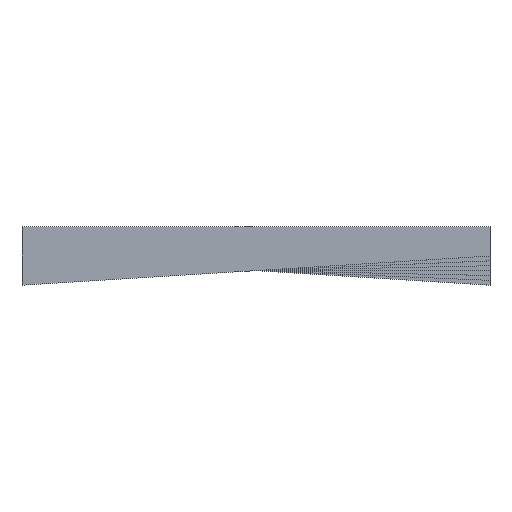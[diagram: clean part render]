
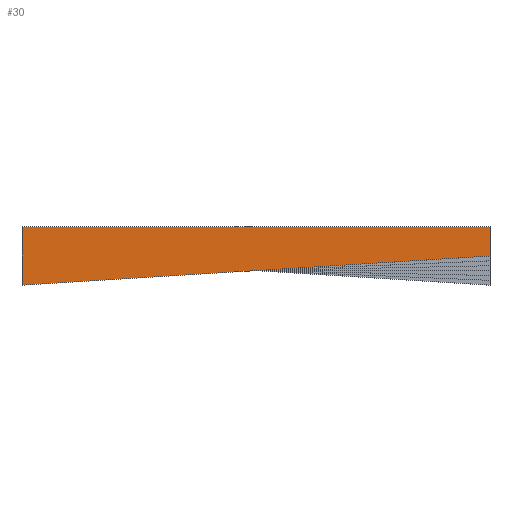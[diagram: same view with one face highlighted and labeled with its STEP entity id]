
A CAD part, front view. The second image highlights one B-rep face of the part: STEP entity #30.
In plain terms, the highlighted planar face has unit normal (0, -1, 0).
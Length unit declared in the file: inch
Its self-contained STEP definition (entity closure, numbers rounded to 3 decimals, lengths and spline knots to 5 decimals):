
#30=ADVANCED_FACE('',(#72),#548,.T.);
#72=FACE_OUTER_BOUND('',#114,.T.);
#114=EDGE_LOOP('',(#168,#169,#170,#171));
#168=ORIENTED_EDGE('',*,*,#330,.F.);
#169=ORIENTED_EDGE('',*,*,#327,.F.);
#170=ORIENTED_EDGE('',*,*,#324,.F.);
#171=ORIENTED_EDGE('',*,*,#320,.F.);
#320=EDGE_CURVE('',#488,#489,#404,.T.);
#324=EDGE_CURVE('',#489,#492,#408,.T.);
#327=EDGE_CURVE('',#492,#494,#411,.T.);
#330=EDGE_CURVE('',#494,#488,#414,.T.);
#404=B_SPLINE_CURVE_WITH_KNOTS('',1,(#781,#782),.UNSPECIFIED.,.F.,.F.,(2,
2),(0.,96.18732),.UNSPECIFIED.);
#408=B_SPLINE_CURVE_WITH_KNOTS('',1,(#789,#790),.UNSPECIFIED.,.F.,.F.,(2,
2),(96.18732,108.18732),.UNSPECIFIED.);
#411=B_SPLINE_CURVE_WITH_KNOTS('',1,(#795,#796),.UNSPECIFIED.,.F.,.F.,(2,
2),(108.18732,204.18732),.UNSPECIFIED.);
#414=B_SPLINE_CURVE_WITH_KNOTS('',1,(#801,#802),.UNSPECIFIED.,.F.,.F.,(2,
2),(204.18732,210.18732),.UNSPECIFIED.);
#488=VERTEX_POINT('',#773);
#489=VERTEX_POINT('',#774);
#492=VERTEX_POINT('',#777);
#494=VERTEX_POINT('',#779);
#548=PLANE('',#681);
#681=AXIS2_PLACEMENT_3D('',#771,#726,$);
#726=DIRECTION('',(0.,-1.,0.));
#771=CARTESIAN_POINT('',(-1111.34355,-0.9583,400.84288));
#773=CARTESIAN_POINT('',(-1003.34355,-0.9583,393.34288));
#774=CARTESIAN_POINT('',(-1099.34355,-0.9583,387.34288));
#777=CARTESIAN_POINT('',(-1099.34355,-0.9583,399.34288));
#779=CARTESIAN_POINT('',(-1003.34355,-0.9583,399.34288));
#781=CARTESIAN_POINT('',(-1003.34355,-0.9583,393.34288));
#782=CARTESIAN_POINT('',(-1099.34355,-0.9583,387.34288));
#789=CARTESIAN_POINT('',(-1099.34355,-0.9583,387.34288));
#790=CARTESIAN_POINT('',(-1099.34355,-0.9583,399.34288));
#795=CARTESIAN_POINT('',(-1099.34355,-0.9583,399.34288));
#796=CARTESIAN_POINT('',(-1003.34355,-0.9583,399.34288));
#801=CARTESIAN_POINT('',(-1003.34355,-0.9583,399.34288));
#802=CARTESIAN_POINT('',(-1003.34355,-0.9583,393.34288));
